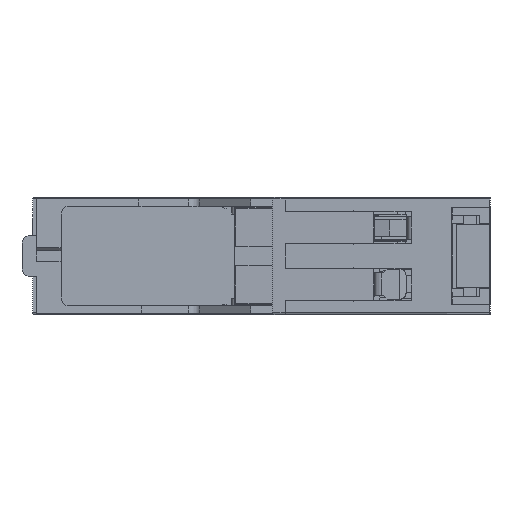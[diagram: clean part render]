
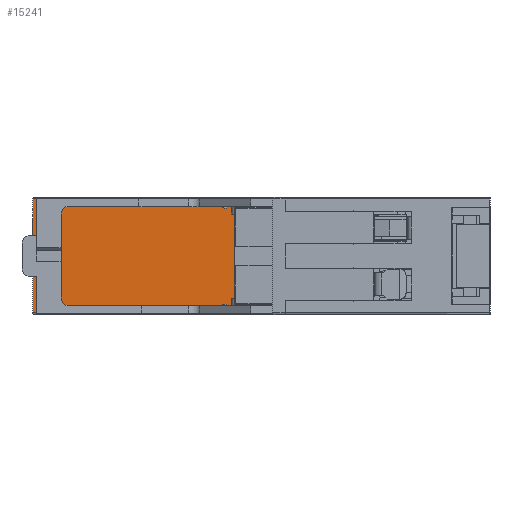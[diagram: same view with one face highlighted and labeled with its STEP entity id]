
A CAD part, left-side view. The second image highlights one B-rep face of the part: STEP entity #15241.
In plain terms, the highlighted planar face has unit normal (-1, 0.009, 0).
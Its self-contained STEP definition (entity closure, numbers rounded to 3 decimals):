
#11946=ELLIPSE('',#93794,0.2,0.2);
#11947=ELLIPSE('',#93795,0.2,0.2);
#15241=ADVANCED_FACE('',(#22454),#18866,.T.);
#18866=PLANE('',#93796);
#22454=FACE_OUTER_BOUND('',#26742,.T.);
#26742=EDGE_LOOP('',(#57982,#57983,#57984,#57985,#57986,#57987,#57988,#57989,
#57990,#57991));
#33056=LINE('',#150331,#41815);
#33316=LINE('',#150902,#42075);
#33317=LINE('',#150904,#42076);
#33318=LINE('',#150909,#42077);
#33319=LINE('',#150911,#42078);
#33320=LINE('',#150913,#42079);
#33321=LINE('',#150914,#42080);
#33322=LINE('',#150916,#42081);
#41815=VECTOR('',#107853,1.);
#42075=VECTOR('',#108227,1.);
#42076=VECTOR('',#108230,1.);
#42077=VECTOR('',#108233,1.);
#42078=VECTOR('',#108234,1.);
#42079=VECTOR('',#108235,1.);
#42080=VECTOR('',#108236,1.);
#42081=VECTOR('',#108237,1.);
#57982=ORIENTED_EDGE('',*,*,#83110,.T.);
#57983=ORIENTED_EDGE('',*,*,#83111,.T.);
#57984=ORIENTED_EDGE('',*,*,#83112,.F.);
#57985=ORIENTED_EDGE('',*,*,#83113,.T.);
#57986=ORIENTED_EDGE('',*,*,#83114,.T.);
#57987=ORIENTED_EDGE('',*,*,#83109,.F.);
#57988=ORIENTED_EDGE('',*,*,#83115,.F.);
#57989=ORIENTED_EDGE('',*,*,#83116,.T.);
#57990=ORIENTED_EDGE('',*,*,#82827,.F.);
#57991=ORIENTED_EDGE('',*,*,#83117,.T.);
#73373=VERTEX_POINT('',#150330);
#73374=VERTEX_POINT('',#150332);
#73614=VERTEX_POINT('',#150899);
#73615=VERTEX_POINT('',#150901);
#73616=VERTEX_POINT('',#150905);
#73617=VERTEX_POINT('',#150906);
#73618=VERTEX_POINT('',#150908);
#73619=VERTEX_POINT('',#150910);
#73620=VERTEX_POINT('',#150912);
#73621=VERTEX_POINT('',#150915);
#82827=EDGE_CURVE('',#73373,#73374,#33056,.T.);
#83109=EDGE_CURVE('',#73615,#73614,#33316,.T.);
#83110=EDGE_CURVE('',#73616,#73617,#33317,.T.);
#83111=EDGE_CURVE('',#73617,#73618,#11946,.T.);
#83112=EDGE_CURVE('',#73619,#73618,#33318,.T.);
#83113=EDGE_CURVE('',#73619,#73620,#33319,.T.);
#83114=EDGE_CURVE('',#73620,#73614,#33320,.T.);
#83115=EDGE_CURVE('',#73621,#73615,#33321,.T.);
#83116=EDGE_CURVE('',#73621,#73374,#33322,.T.);
#83117=EDGE_CURVE('',#73373,#73616,#11947,.T.);
#93794=AXIS2_PLACEMENT_3D('',#150907,#108231,#108232);
#93795=AXIS2_PLACEMENT_3D('',#150917,#108238,#108239);
#93796=AXIS2_PLACEMENT_3D('',#150918,#108240,#108241);
#107853=DIRECTION('',(-0.009,-1.,0.));
#108227=DIRECTION('',(0.,0.,1.));
#108230=DIRECTION('',(0.,0.,1.));
#108231=DIRECTION('',(1.,-0.009,0.));
#108232=DIRECTION('',(-0.009,-1.,0.));
#108233=DIRECTION('',(0.009,1.,0.));
#108234=DIRECTION('',(0.,0.,1.));
#108235=DIRECTION('',(0.009,1.,0.));
#108236=DIRECTION('',(0.009,1.,0.));
#108237=DIRECTION('',(0.,0.,1.));
#108238=DIRECTION('',(1.,-0.009,0.));
#108239=DIRECTION('',(-0.009,-1.,0.));
#108240=DIRECTION('',(-1.,0.009,0.));
#108241=DIRECTION('',(-0.009,-1.,0.));
#150330=CARTESIAN_POINT('',(11.951,32.9,-6.5));
#150331=CARTESIAN_POINT('',(12.2,61.,-6.5));
#150332=CARTESIAN_POINT('',(11.9,27.2,-6.5));
#150899=CARTESIAN_POINT('',(12.2,61.,7.6));
#150901=CARTESIAN_POINT('',(12.2,61.,-7.6));
#150902=CARTESIAN_POINT('',(12.2,61.,-7.8));
#150904=CARTESIAN_POINT('',(11.952,33.1,-7.8));
#150905=CARTESIAN_POINT('',(11.952,33.1,-6.3));
#150906=CARTESIAN_POINT('',(11.952,33.1,6.3));
#150907=CARTESIAN_POINT('',(11.951,32.9,6.3));
#150908=CARTESIAN_POINT('',(11.951,32.9,6.5));
#150909=CARTESIAN_POINT('',(12.2,61.,6.5));
#150910=CARTESIAN_POINT('',(11.9,27.2,6.5));
#150911=CARTESIAN_POINT('',(11.9,27.2,7.8));
#150912=CARTESIAN_POINT('',(11.9,27.2,7.6));
#150913=CARTESIAN_POINT('',(12.2,61.,7.6));
#150914=CARTESIAN_POINT('',(12.2,61.,-7.6));
#150915=CARTESIAN_POINT('',(11.9,27.2,-7.6));
#150916=CARTESIAN_POINT('',(11.9,27.2,-7.8));
#150917=CARTESIAN_POINT('',(11.951,32.9,-6.3));
#150918=CARTESIAN_POINT('',(12.2,61.,-7.8));
